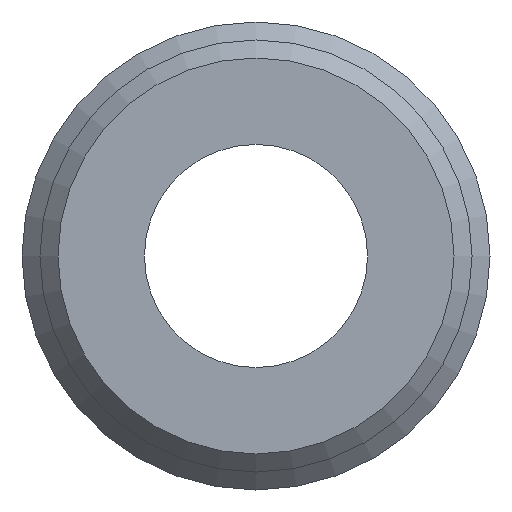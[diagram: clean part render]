
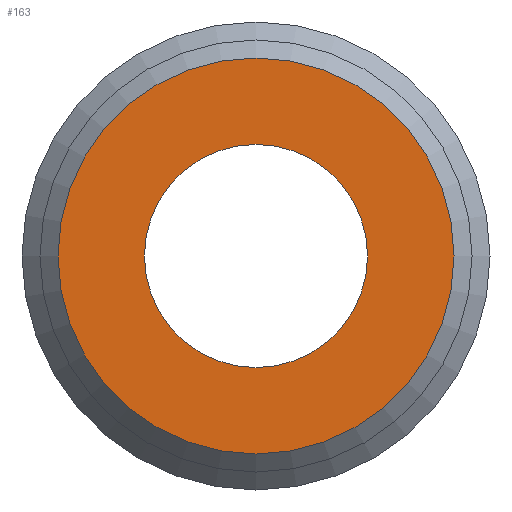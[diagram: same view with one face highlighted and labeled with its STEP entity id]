
A CAD part, front view. The second image highlights one B-rep face of the part: STEP entity #163.
In plain terms, the highlighted planar face has unit normal (0, -1, 0).
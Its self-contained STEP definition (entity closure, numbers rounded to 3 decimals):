
#121=CARTESIAN_POINT('',(-5.5,0.,0.));
#122=VERTEX_POINT('',#121);
#123=CARTESIAN_POINT('',(0.0,0.,0.0));
#124=DIRECTION('',(0.0,1.0,0.0));
#125=DIRECTION('',(1.0,0.0,0.0));
#126=AXIS2_PLACEMENT_3D('',#123,#124,#125);
#127=CIRCLE('',#126,5.5);
#128=EDGE_CURVE('',#122,#122,#127,.T.);
#144=CARTESIAN_POINT('',(-4.55,0.,0.0));
#145=DIRECTION('',(0.0,-1.0,0.0));
#146=DIRECTION('',(0.0,0.0,-1.0));
#147=AXIS2_PLACEMENT_3D('',#144,#145,#146);
#148=PLANE('',#147);
#149=ORIENTED_EDGE('',*,*,#128,.F.);
#150=EDGE_LOOP('',(#149));
#151=FACE_OUTER_BOUND('',#150,.T.);
#152=CARTESIAN_POINT('',(-3.1,0.,0.0));
#153=VERTEX_POINT('',#152);
#154=CARTESIAN_POINT('',(0.0,0.,0.0));
#155=DIRECTION('',(0.0,1.0,0.0));
#156=DIRECTION('',(-1.0,0.0,0.0));
#157=AXIS2_PLACEMENT_3D('',#154,#155,#156);
#158=CIRCLE('',#157,3.1);
#159=EDGE_CURVE('',#153,#153,#158,.T.);
#160=ORIENTED_EDGE('',*,*,#159,.T.);
#161=EDGE_LOOP('',(#160));
#162=FACE_BOUND('',#161,.T.);
#163=ADVANCED_FACE('',(#151,#162),#148,.T.);
